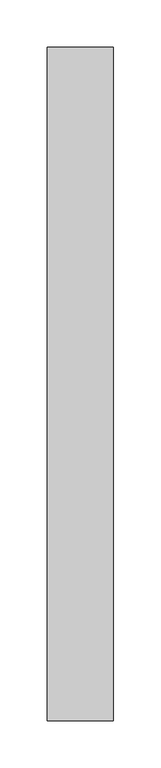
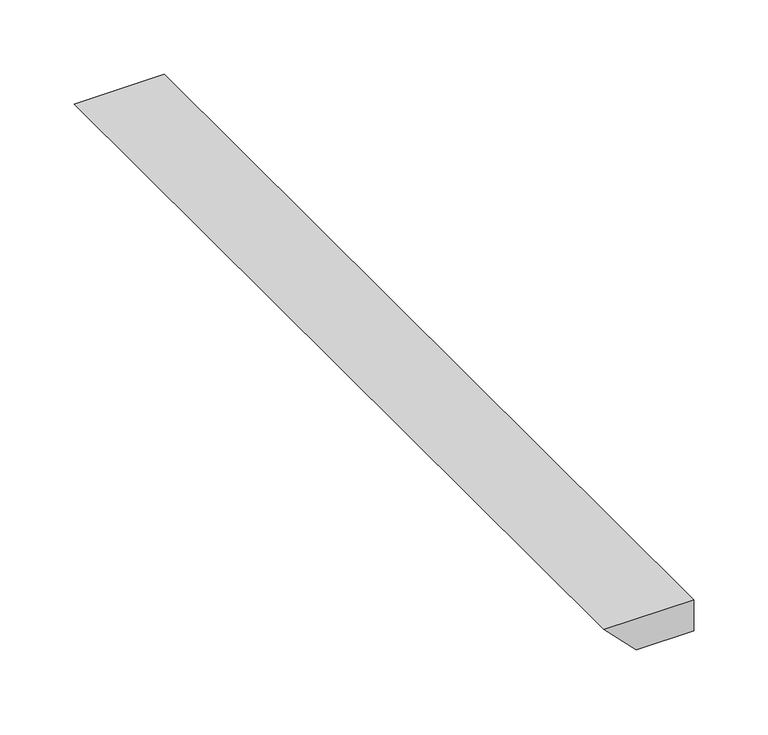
"""IFC4 building model written with IfcOpenShell, lengths in millimetres: proxy geometry, CAMBRIDGE^TABLE 2_4884 Rect-CORNER STILE 1."""

from ifc_helpers import new_model, si_unit, frame, origin, place, context, project, spatial, polyline, outline, extrude, source, transform, mapped, element, save


def generic_models_cfb6f23c(model_context):
    return source(origin(), model_context, "Body", "SweptSolid", [
        extrude(outline(polyline([(-431.8, 635.0), (-431.8, 679.45), (-406.4, 679.45), (-406.4, 609.6), (-431.8, 635.0)])), frame((0.0, -711.2, 0.0), z_axis=(0.0, 1.0, 0.0), x_axis=(0.0, 0.0, 1.0)), (0.0, 0.0, 1.0), 711.2),
    ])


if __name__ == "__main__":
    model = new_model("IFC4")
    model_context = context("Model", 3, world=origin())
    ifc_project = project(units=[si_unit("LENGTHUNIT", "METRE", prefix="MILLI")], contexts=[model_context])
    site = spatial("IfcSite", under=ifc_project)
    building = spatial("IfcBuilding", under=site)
    placement = place(None, origin())
    generic_models_shape = generic_models_cfb6f23c(model_context)
    element("IfcBuildingElementProxy", 1, Name="CAMBRIDGE^TABLE 2_4884 Rect-CORNER STILE 1", ObjectType="CAMBRIDGE^TABLE 2_4884 Rect-CORNER STILE 1", at=placement, inside=building, context=model_context, shape_type="MappedRepresentation", body=[
        mapped(generic_models_shape, transform((0.0, 0.0, 0.0), x_axis=(1.0, 0.0, 0.0), y_axis=(0.0, 1.0, 0.0), z_axis=(0.0, 0.0, 1.0))),
    ])
    save(model, "model.ifc")
